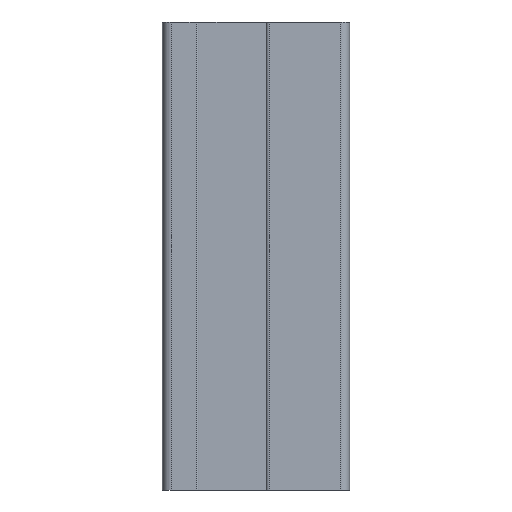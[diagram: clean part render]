
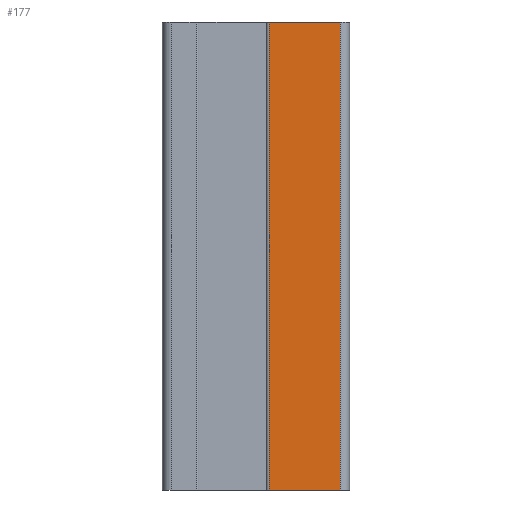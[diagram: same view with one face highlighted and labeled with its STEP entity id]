
A CAD part, left-side view. The second image highlights one B-rep face of the part: STEP entity #177.
In plain terms, the highlighted planar face has unit normal (-1, 0, 0).
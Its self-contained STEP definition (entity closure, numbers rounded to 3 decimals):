
#177=ADVANCED_FACE('',(#409),#410,.F.);
#409=FACE_OUTER_BOUND('',#694,.T.);
#410=PLANE('',#695);
#694=EDGE_LOOP('',(#1211,#1212,#1213,#1214));
#695=AXIS2_PLACEMENT_3D('',#1215,#1216,#1217);
#1211=ORIENTED_EDGE('',*,*,#1853,.T.);
#1212=ORIENTED_EDGE('',*,*,#1971,.F.);
#1213=ORIENTED_EDGE('',*,*,#1972,.F.);
#1214=ORIENTED_EDGE('',*,*,#1944,.T.);
#1215=CARTESIAN_POINT('',(0.0,8.6,50.0));
#1216=DIRECTION('',(1.0,0.,0.0));
#1217=DIRECTION('',(0.,1.0,0.0));
#1853=EDGE_CURVE('',#2280,#2278,#2281,.T.);
#1944=EDGE_CURVE('',#2428,#2280,#2429,.T.);
#1971=EDGE_CURVE('',#2464,#2278,#2465,.T.);
#1972=EDGE_CURVE('',#2428,#2464,#2466,.T.);
#2278=VERTEX_POINT('',#2851);
#2280=VERTEX_POINT('',#2853);
#2281=LINE('',#2854,#2855);
#2428=VERTEX_POINT('',#3052);
#2429=LINE('',#3053,#3054);
#2464=VERTEX_POINT('',#3103);
#2465=LINE('',#3104,#3105);
#2466=LINE('',#3106,#3107);
#2851=CARTESIAN_POINT('',(0.,1.,0.0));
#2853=CARTESIAN_POINT('',(0.0,8.6,0.0));
#2854=CARTESIAN_POINT('',(0.0,8.6,0.0));
#2855=VECTOR('',#3519,1.0);
#3052=CARTESIAN_POINT('',(0.0,8.6,50.0));
#3053=CARTESIAN_POINT('',(0.0,8.6,50.0));
#3054=VECTOR('',#3642,1.0);
#3103=CARTESIAN_POINT('',(0.,1.,50.0));
#3104=CARTESIAN_POINT('',(0.,1.,50.0));
#3105=VECTOR('',#3666,1.0);
#3106=CARTESIAN_POINT('',(0.0,8.6,50.0));
#3107=VECTOR('',#3667,1.0);
#3519=DIRECTION('',(0.,-1.0,0.0));
#3642=DIRECTION('',(0.0,0.0,-1.0));
#3666=DIRECTION('',(0.0,0.0,-1.0));
#3667=DIRECTION('',(0.,-1.0,0.0));
